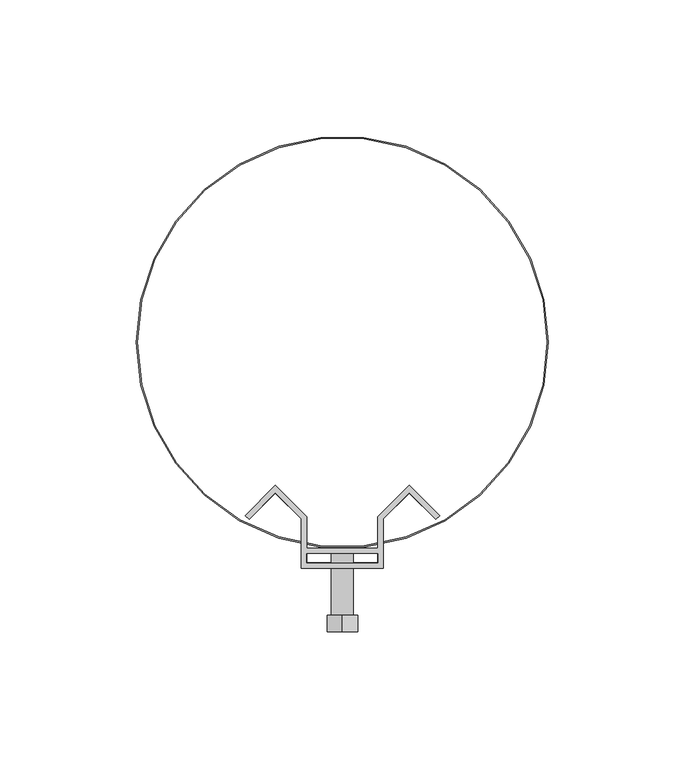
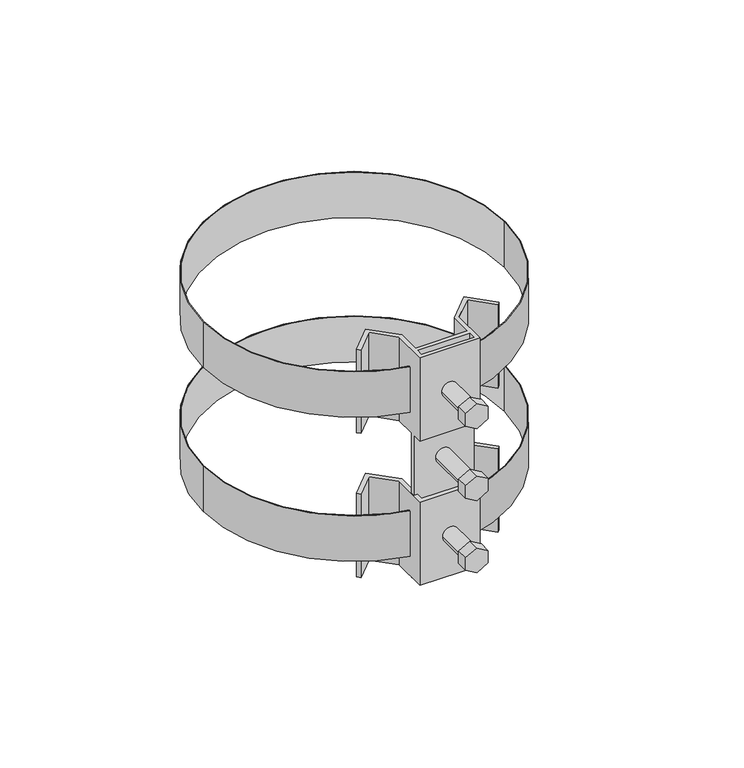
"""IFC4 building model written with IfcOpenShell, lengths in millimetres: proxy geometry, КНС_ХомутДвойнойТрубныйДляИзолированнойШтанги_DKC : NK3101_Нержавеющая сталь_D150."""

from ifc_helpers import new_model, si_unit, point, frame, frame_2d, origin, origin_2d, place, context, project, spatial, polyline, circle_curve, trimmed, segment, composite_curve, outline, extrude, faceted_brep, source, transform, mapped, element, save


def security_devices_9b5765ba(model_context):
    return source(origin(), model_context, "Body", "SolidModel", [
        extrude(outline(composite_curve([segment(trimmed(circle_curve(origin_2d(), 75.5), [point((-75.5, 0.0))], [point((75.5, 0.0))], False, "CARTESIAN"), True, "CONTINUOUS"), segment(trimmed(circle_curve(origin_2d(), 75.5), [point((75.5, 0.0))], [point((-75.5, 0.0))], False, "CARTESIAN"), True, "CONTINUOUS")], self_intersect=False), holes=[composite_curve([segment(trimmed(circle_curve(origin_2d(), 75.0), [point((-75.0, 0.0))], [point((75.0, 0.0))], True, "CARTESIAN"), True, "CONTINUOUS"), segment(trimmed(circle_curve(origin_2d(), 75.0), [point((75.0, 0.0))], [point((-75.0, 0.0))], True, "CARTESIAN"), True, "CONTINUOUS")], self_intersect=False)]), frame((0.0, 0.0, -50.0), z_axis=(0.0, 0.0, 1.0), x_axis=(1.0, 0.0, 0.0)), (0.0, 0.0, 1.0), 24.0),
        extrude(outline(composite_curve([segment(trimmed(circle_curve(origin_2d(), 75.5), [point((-75.5, 0.0))], [point((75.5, 0.0))], False, "CARTESIAN"), True, "CONTINUOUS"), segment(trimmed(circle_curve(origin_2d(), 75.5), [point((75.5, 0.0))], [point((-75.5, 0.0))], False, "CARTESIAN"), True, "CONTINUOUS")], self_intersect=False), holes=[composite_curve([segment(trimmed(circle_curve(origin_2d(), 75.0), [point((-75.0, 0.0))], [point((75.0, 0.0))], True, "CARTESIAN"), True, "CONTINUOUS"), segment(trimmed(circle_curve(origin_2d(), 75.0), [point((75.0, 0.0))], [point((-75.0, 0.0))], True, "CARTESIAN"), True, "CONTINUOUS")], self_intersect=False)]), frame((0.0, 0.0, 26.0), z_axis=(0.0, 0.0, 1.0), x_axis=(1.0, 0.0, 0.0)), (0.0, 0.0, 1.0), 24.0),
        extrude(outline(polyline([(-24.5148443, -55.2143378), (-34.1969759, -64.8964694), (-35.6111894, -63.4822559), (-24.5148443, -52.3859107), (-13.0, -63.900755), (-13.0, -80.8323522), (13.0, -80.8323522), (13.0, -63.900755), (24.5148443, -52.3859107), (35.6111894, -63.4822559), (34.1969759, -64.8964694), (24.5148443, -55.2143378), (15.0, -64.7291821), (15.0, -82.8323522), (-15.0, -82.8323522), (-15.0, -64.7291821), (-24.5148443, -55.2143378)])), frame((0.0, 0.0, -60.0), z_axis=(0.0, 0.0, 1.0), x_axis=(1.0, 0.0, 0.0)), (0.0, 0.0, 1.0), 44.0),
        extrude(outline(composite_curve([segment(trimmed(circle_curve(frame_2d((-38.0, 0.0)), 4.0), [point((-38.0, -4.0))], [point((-38.0, 4.0))], False, "CARTESIAN"), True, "CONTINUOUS"), segment(trimmed(circle_curve(frame_2d((-38.0, 0.0)), 4.0), [point((-38.0, 4.0))], [point((-38.0, -4.0))], False, "CARTESIAN"), True, "CONTINUOUS")], self_intersect=False)), frame((0.0, -100.0, 0.0), z_axis=(0.0, 1.0, 0.0), x_axis=(0.0, 0.0, 1.0)), (0.0, 0.0, 1.0), 25.0),
        extrude(outline(polyline([(-34.7486159, -5.6315625), (-41.2513841, -5.6315625), (-44.5027683, 0.0), (-41.2513841, 5.6315625), (-34.7486159, 5.6315625), (-31.4972317, 0.0), (-34.7486159, -5.6315625)])), frame((0.0, -106.0, 0.0), z_axis=(0.0, 1.0, 0.0), x_axis=(0.0, 0.0, 1.0)), (0.0, 0.0, 1.0), 6.0),
        extrude(outline(composite_curve([segment(trimmed(circle_curve(origin_2d(), 4.0), [point((0.0, -4.0))], [point((0.0, 4.0))], False, "CARTESIAN"), True, "CONTINUOUS"), segment(trimmed(circle_curve(origin_2d(), 4.0), [point((0.0, 4.0))], [point((0.0, -4.0))], False, "CARTESIAN"), True, "CONTINUOUS")], self_intersect=False)), frame((0.0, -100.0, 0.0), z_axis=(0.0, 1.0, 0.0), x_axis=(0.0, 0.0, 1.0)), (0.0, 0.0, 1.0), 25.0),
        extrude(outline(polyline([(3.2513841, -5.6315625), (-3.2513841, -5.6315625), (-6.5027683, 0.0), (-3.2513841, 5.6315625), (3.2513841, 5.6315625), (6.5027683, 0.0), (3.2513841, -5.6315625)])), frame((0.0, -106.0, 0.0), z_axis=(0.0, 1.0, 0.0), x_axis=(0.0, 0.0, 1.0)), (0.0, 0.0, 1.0), 6.0),
        extrude(outline(composite_curve([segment(trimmed(circle_curve(frame_2d((38.0, 0.0)), 4.0), [point((38.0, -4.0))], [point((38.0, 4.0))], False, "CARTESIAN"), True, "CONTINUOUS"), segment(trimmed(circle_curve(frame_2d((38.0, 0.0)), 4.0), [point((38.0, 4.0))], [point((38.0, -4.0))], False, "CARTESIAN"), True, "CONTINUOUS")], self_intersect=False)), frame((0.0, -100.0, 0.0), z_axis=(0.0, 1.0, 0.0), x_axis=(0.0, 0.0, 1.0)), (0.0, 0.0, 1.0), 25.0),
        extrude(outline(polyline([(41.2513841, -5.6315625), (34.7486159, -5.6315625), (31.4972317, 0.0), (34.7486159, 5.6315625), (41.2513841, 5.6315625), (44.5027683, 0.0), (41.2513841, -5.6315625)])), frame((0.0, -106.0, 0.0), z_axis=(0.0, 1.0, 0.0), x_axis=(0.0, 0.0, 1.0)), (0.0, 0.0, 1.0), 6.0),
        faceted_brep([(-24.5148443, -55.2143378, 60.0), (-15.0, -64.7291821, 60.0), (-15.0, -82.8323522, 60.0), (15.0, -82.8323522, 60.0), (15.0, -64.7291821, 60.0), (24.5148443, -55.2143378, 60.0), (34.1969759, -64.8964694, 60.0), (35.6111894, -63.4822559, 60.0), (24.5148443, -52.3859107, 60.0), (13.0, -63.900755, 60.0), (13.0, -75.5, 60.0), (-13.0, -75.5, 60.0), (-13.0, -63.900755, 60.0), (-24.5148443, -52.3859107, 60.0), (-35.6111894, -63.4822559, 60.0), (-34.1969759, -64.8964694, 60.0), (-13.0, -80.8323522, 60.0), (-13.0, -77.5, 60.0), (13.0, -77.5, 60.0), (13.0, -80.8323522, 60.0), (-24.5148443, -55.2143378, 16.0), (-34.1969759, -64.8964694, 16.0), (-35.6111894, -63.4822559, 16.0), (-24.5148443, -52.3859107, 16.0), (-13.0, -63.900755, 16.0), (-13.0, -75.5, 16.0), (-15.0, -75.5, 16.0), (-15.0, -64.7291821, 16.0), (-13.0, -80.8323522, 16.0), (13.0, -80.8323522, 16.0), (13.0, -77.5, 16.0), (15.0, -77.5, 16.0), (15.0, -82.8323522, 16.0), (-15.0, -82.8323522, 16.0), (-15.0, -77.5, 16.0), (-13.0, -77.5, 16.0), (13.0, -63.900755, 16.0), (24.5148443, -52.3859107, 16.0), (35.6111894, -63.4822559, 16.0), (34.1969759, -64.8964694, 16.0), (24.5148443, -55.2143378, 16.0), (15.0, -64.7291821, 16.0), (15.0, -75.5, 16.0), (13.0, -75.5, 16.0), (-15.0, -75.5, -60.0), (-15.0, -77.5, -60.0), (15.0, -77.5, -60.0), (15.0, -75.5, -60.0)], [[[0, 1, 2, 3, 4, 5, 6, 7, 8, 9, 10, 11, 12, 13, 14, 15], [16, 17, 18, 19]], [[20, 21, 22, 23, 24, 25, 26, 27]], [[28, 29, 30, 31, 32, 33, 34, 35]], [[36, 37, 38, 39, 40, 41, 42, 43]], [[1, 0, 20, 27]], [[2, 1, 27, 26, 44, 45, 34, 33]], [[3, 2, 33, 32]], [[4, 3, 32, 31, 46, 47, 42, 41]], [[5, 4, 41, 40]], [[6, 5, 40, 39]], [[7, 6, 39, 38]], [[8, 7, 38, 37]], [[9, 8, 37, 36]], [[9, 36, 43, 10]], [[29, 19, 18, 30]], [[16, 19, 29, 28]], [[16, 28, 35, 17]], [[24, 12, 11, 25]], [[13, 12, 24, 23]], [[14, 13, 23, 22]], [[15, 14, 22, 21]], [[0, 15, 21, 20]], [[44, 47, 46, 45]], [[45, 46, 31, 30, 18, 17, 35, 34]], [[47, 44, 26, 25, 11, 10, 43, 42]]]),
    ])


if __name__ == "__main__":
    model = new_model("IFC4")
    model_context = context("Model", 3, world=origin())
    ifc_project = project(units=[si_unit("LENGTHUNIT", "METRE", prefix="MILLI")], contexts=[model_context])
    site = spatial("IfcSite", under=ifc_project)
    building = spatial("IfcBuilding", under=site)
    placement = place(None, origin())
    security_devices_shape = security_devices_9b5765ba(model_context)
    element("IfcBuildingElementProxy", 1, Name="КНС_ХомутДвойнойТрубныйДляИзолированнойШтанги_DKC : NK3101_Нержавеющая сталь_D150", ObjectType="КНС_ХомутДвойнойТрубныйДляИзолированнойШтанги_DKC : NK3101_Нержавеющая сталь_D150", at=placement, inside=building, context=model_context, shape_type="MappedRepresentation", body=[
        mapped(security_devices_shape, transform((0.0, 0.0, 0.0), x_axis=(1.0, 0.0, 0.0), y_axis=(0.0, 1.0, 0.0), z_axis=(0.0, 0.0, 1.0))),
    ])
    save(model, "model.ifc")
